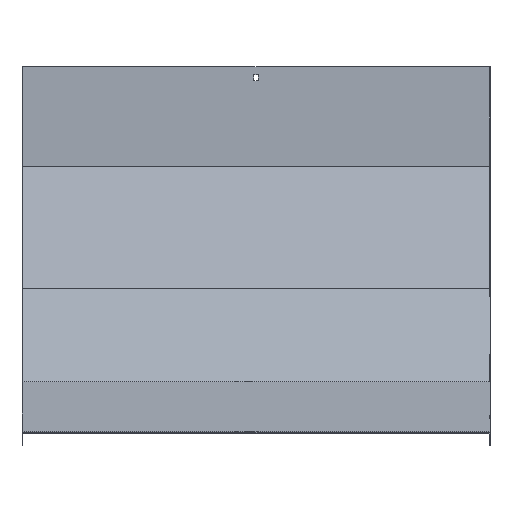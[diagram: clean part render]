
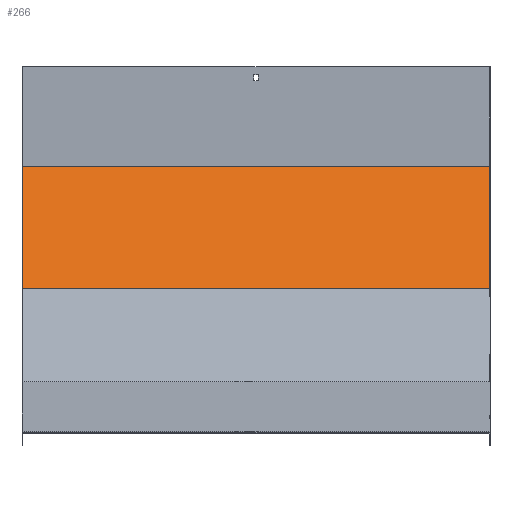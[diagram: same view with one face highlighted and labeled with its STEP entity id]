
A CAD part, top view. The second image highlights one B-rep face of the part: STEP entity #266.
In plain terms, the highlighted planar face has unit normal (0, 0.383, 0.924).
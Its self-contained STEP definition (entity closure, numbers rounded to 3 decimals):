
#17 = EDGE_CURVE ( 'NONE', #670, #841, #1024, .T. ) ;
#109 = CARTESIAN_POINT ( 'NONE',  ( -351.5, 400.116, -549.916 ) ) ;
#132 = DIRECTION ( 'NONE',  ( 0., -0.924, 0.383 ) ) ;
#182 = CARTESIAN_POINT ( 'NONE',  ( 351.5, 216.541, -473.877 ) ) ;
#214 = DIRECTION ( 'NONE',  ( 0., 0.924, -0.383 ) ) ;
#216 = CARTESIAN_POINT ( 'NONE',  ( 351.5, 216.541, -473.877 ) ) ;
#220 = FACE_OUTER_BOUND ( 'NONE', #943, .T. ) ;
#250 = EDGE_CURVE ( 'NONE', #670, #296, #309, .T. ) ;
#266 = ADVANCED_FACE ( 'NONE', ( #220 ), #910, .T. ) ;
#290 = VECTOR ( 'NONE', #214, 1000. ) ;
#296 = VERTEX_POINT ( 'NONE', #734 ) ;
#309 = LINE ( 'NONE', #216, #887 ) ;
#312 = ORIENTED_EDGE ( 'NONE', *, *, #546, .F. ) ;
#331 = AXIS2_PLACEMENT_3D ( 'NONE', #374, #465, #132 ) ;
#334 = CARTESIAN_POINT ( 'NONE',  ( 351.5, 216.541, -473.877 ) ) ;
#374 = CARTESIAN_POINT ( 'NONE',  ( 351.5, 216.541, -473.877 ) ) ;
#410 = CARTESIAN_POINT ( 'NONE',  ( 351.5, 400.116, -549.916 ) ) ;
#465 = DIRECTION ( 'NONE',  ( 0., 0.383, 0.924 ) ) ;
#468 = LINE ( 'NONE', #640, #290 ) ;
#484 = LINE ( 'NONE', #829, #926 ) ;
#515 = DIRECTION ( 'NONE',  ( 0., 0.924, -0.383 ) ) ;
#546 = EDGE_CURVE ( 'NONE', #296, #1060, #468, .T. ) ;
#640 = CARTESIAN_POINT ( 'NONE',  ( -351.5, 216.541, -473.877 ) ) ;
#662 = DIRECTION ( 'NONE',  ( -1., 0., 0. ) ) ;
#670 = VERTEX_POINT ( 'NONE', #334 ) ;
#734 = CARTESIAN_POINT ( 'NONE',  ( -351.5, 216.541, -473.877 ) ) ;
#829 = CARTESIAN_POINT ( 'NONE',  ( 351.5, 400.116, -549.916 ) ) ;
#841 = VERTEX_POINT ( 'NONE', #410 ) ;
#887 = VECTOR ( 'NONE', #904, 1000. ) ;
#898 = ORIENTED_EDGE ( 'NONE', *, *, #931, .T. ) ;
#904 = DIRECTION ( 'NONE',  ( -1., 0., 0. ) ) ;
#906 = VECTOR ( 'NONE', #515, 1000. ) ;
#910 = PLANE ( 'NONE',  #331 ) ;
#912 = ORIENTED_EDGE ( 'NONE', *, *, #250, .F. ) ;
#921 = ORIENTED_EDGE ( 'NONE', *, *, #17, .T. ) ;
#926 = VECTOR ( 'NONE', #662, 1000. ) ;
#931 = EDGE_CURVE ( 'NONE', #841, #1060, #484, .T. ) ;
#943 = EDGE_LOOP ( 'NONE', ( #312, #912, #921, #898 ) ) ;
#1024 = LINE ( 'NONE', #182, #906 ) ;
#1060 = VERTEX_POINT ( 'NONE', #109 ) ;
